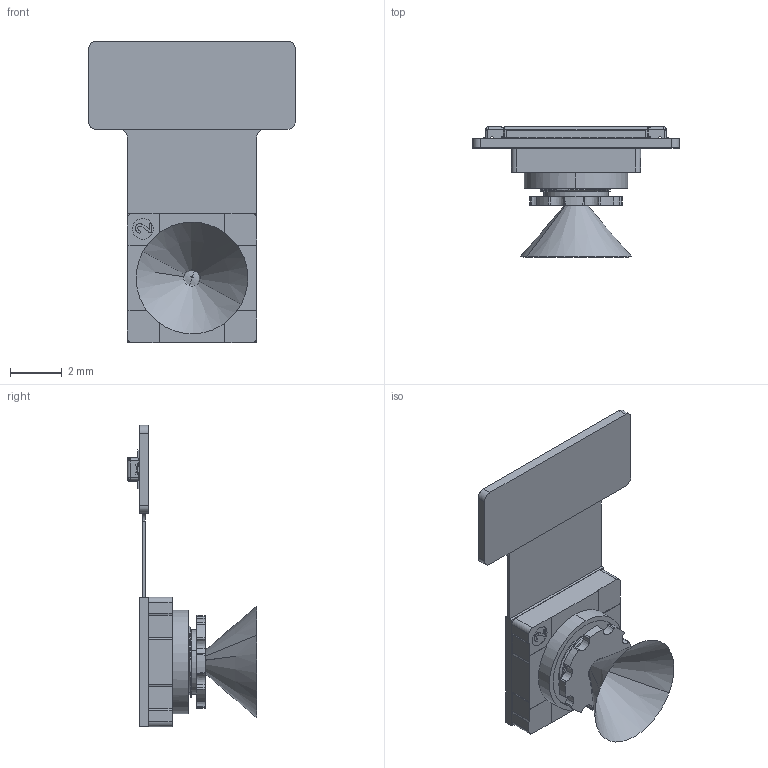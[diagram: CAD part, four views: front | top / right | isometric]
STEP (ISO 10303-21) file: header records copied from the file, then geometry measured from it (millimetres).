
FILE_DESCRIPTION(('CATIA V5 STEP Exchange'),'2;1');
FILE_NAME('D:\Desktop\1560\ZS1560-C(VD65G4CCC0) FOV80° 3D 260724.stp','2026-07-24T08:40:33+00:00',('none'),('none'),'CATIA Version 5 Release 20 GA (IN-10)','CATIA V5 STEP AP203 Edition 2','none');
FILE_SCHEMA(('AP203_CONFIGURATION_CONTROLLED_3D_DESIGN_OF_MECHANICAL_PARTS_AND_ASSEMBLIES_MIM_LF { 1 0 10303 403 2 1 2}'));
Products named in the file (29): Assy_Root; ZS1560-C(VD65G4CCC0) FOV81°; Holder; Connector; FPCB; PCB1; PCB2; FPC; ANGLE; 产品1; VD55G1-; 产品2; EEPROM; 产品3; User_Library-0201(0603M)_Cap; 产品4; User_Library-0201(0603M)_Cap.1; 产品5; User_Library-0201(0603M)_Cap.1.2; 产品6; User_Library-0201(0603M)_Cap.1.2.3; 产品7; User_Library-0201(0603M)_Cap.1.2.3.4; 产品8; Part15; LENS; 1L4A026F1-VD55G0_00_00; 1L4A026F1-H_00_00; H4B109A20-00_T00_00
Assembly tree (28 placements, depth 4):
  Assy_Root
    ZS1560-C(VD65G4CCC0) FOV81°
      Holder
      Connector
      FPCB
        PCB1
        PCB2
        FPC
      ANGLE
    产品1
      VD55G1-
    产品2
      EEPROM
    产品3
      User_Library-0201(0603M)_Cap
    产品4
      User_Library-0201(0603M)_Cap.1
    产品5
      User_Library-0201(0603M)_Cap.1.2
    产品6
      User_Library-0201(0603M)_Cap.1.2.3
    产品7
      User_Library-0201(0603M)_Cap.1.2.3.4
    产品8
      Part15
    LENS
      1L4A026F1-VD55G0_00_00
        1L4A026F1-H_00_00
        H4B109A20-00_T00_00
Bounding box: 8 x 5.01 x 11.65 mm (x, y, z)
Volume: 47.9 mm3; surface area: 381 mm2
Topology: 23 solids, 24 shells, 1681 faces, 4427 edges, 2903 vertices
Faces by surface type: plane 1027, bspline 410, cylinder 207, cone 37
Entity records: 66683 total; most frequent: CARTESIAN_POINT 27086, ORIENTED_EDGE 8676, DIRECTION 5632, EDGE_CURVE 4339, VERTEX_POINT 2828, VECTOR 2813, LINE 2813, EDGE_LOOP 1806
